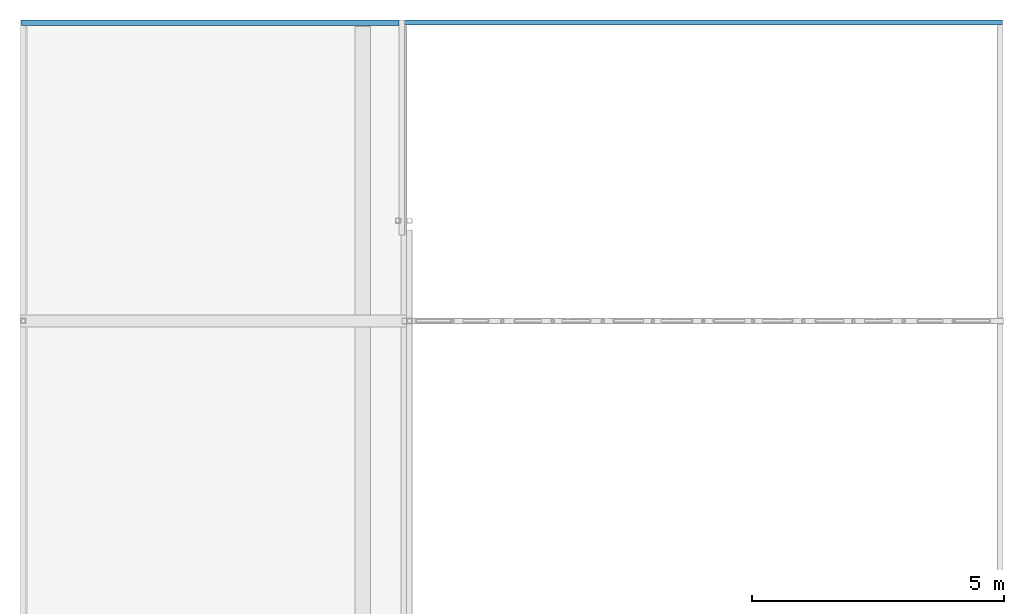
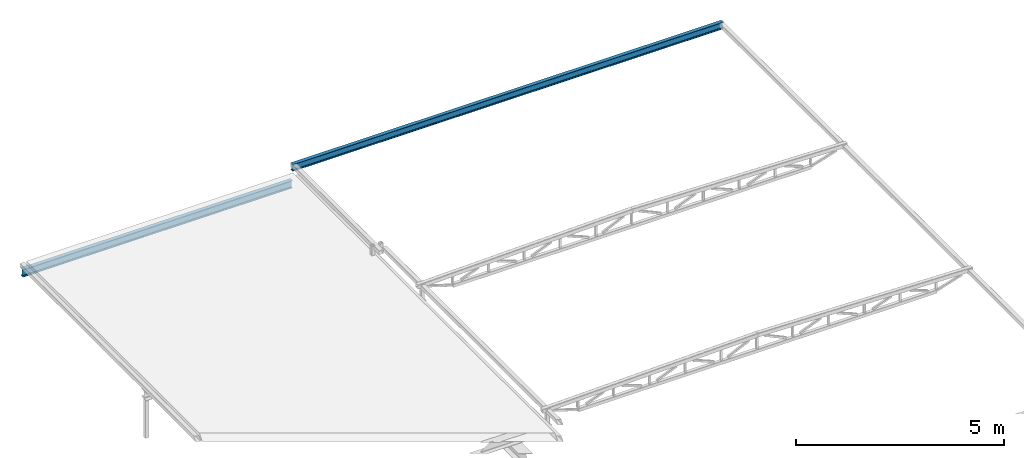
# One storey, part 3 of 12: 2 beams.
"""IFC2X3 building model written with IfcOpenShell, lengths in millimetres."""

from ifc_helpers import new_model, entity, si_unit, converted_unit, derived_unit, direction, frame, frame_2d, origin, place, context, subcontext, project, spatial, i_section, extrude, material, type_object, element, save


model = new_model("IFC2X3")

# Units and contexts
model_context = context("Model", 3, precision=0.01, world=origin(), true_north=direction((6.12303176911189e-17, 1.0)))
body_context = subcontext(model_context, "Body", "Model", "MODEL_VIEW")
ifc_project = project(units=[si_unit("LENGTHUNIT", "METRE", prefix="MILLI"), si_unit("AREAUNIT", "SQUARE_METRE"), si_unit("VOLUMEUNIT", "CUBIC_METRE"), converted_unit("PLANEANGLEUNIT", "DEGREE", entity("IfcRatioMeasure", 0.0174532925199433), si_unit("PLANEANGLEUNIT", "RADIAN"), dimensions=[0, 0, 0, 0, 0, 0, 0]), si_unit("MASSUNIT", "GRAM", prefix="KILO"), derived_unit("MASSDENSITYUNIT", [(si_unit("MASSUNIT", "GRAM", prefix="KILO"), 1), (si_unit("LENGTHUNIT", "METRE"), -3)]), si_unit("TIMEUNIT", "SECOND"), si_unit("FREQUENCYUNIT", "HERTZ"), si_unit("THERMODYNAMICTEMPERATUREUNIT", "DEGREE_CELSIUS"), derived_unit("THERMALTRANSMITTANCEUNIT", [(si_unit("MASSUNIT", "GRAM", prefix="KILO"), 1), (si_unit("THERMODYNAMICTEMPERATUREUNIT", "KELVIN"), -1), (si_unit("TIMEUNIT", "SECOND"), -3)]), derived_unit("VOLUMETRICFLOWRATEUNIT", [(si_unit("LENGTHUNIT", "METRE"), 3), (si_unit("TIMEUNIT", "SECOND"), -1)]), si_unit("ELECTRICCURRENTUNIT", "AMPERE"), si_unit("ELECTRICVOLTAGEUNIT", "VOLT"), si_unit("POWERUNIT", "WATT"), si_unit("FORCEUNIT", "NEWTON", prefix="KILO"), si_unit("ILLUMINANCEUNIT", "LUX"), si_unit("LUMINOUSFLUXUNIT", "LUMEN"), si_unit("LUMINOUSINTENSITYUNIT", "CANDELA"), derived_unit("USERDEFINED", [(si_unit("MASSUNIT", "GRAM", prefix="KILO"), -1), (si_unit("LENGTHUNIT", "METRE"), -2), (si_unit("TIMEUNIT", "SECOND"), 3), (si_unit("LUMINOUSFLUXUNIT", "LUMEN"), 1)]), derived_unit("LINEARVELOCITYUNIT", [(si_unit("LENGTHUNIT", "METRE"), 1), (si_unit("TIMEUNIT", "SECOND"), -1)]), si_unit("PRESSUREUNIT", "PASCAL"), derived_unit("USERDEFINED", [(si_unit("LENGTHUNIT", "METRE"), -2), (si_unit("MASSUNIT", "GRAM", prefix="KILO"), 1), (si_unit("TIMEUNIT", "SECOND"), -2)])], contexts=[model_context])

# Site, building, storey
site_placement = place(None, frame((0.0, 0.0, 101000.0)))
site = spatial("IfcSite", under=ifc_project, at=site_placement, Name="Default", CompositionType="ELEMENT")
building_placement = place(site_placement, origin())
building = spatial("IfcBuilding", under=site, at=building_placement, CompositionType="ELEMENT")
storey_placement = place(building_placement, frame((0.0, 0.0, 6025.0)))
storey = spatial("IfcBuildingStorey", under=building, at=storey_placement, Name="03", CompositionType="ELEMENT", Elevation=6024.9999999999)

# Beams
ifc_material = material(Name="Stål - S355")
beam_type_1 = type_object("IfcBeamType", Name="Bjelke IPE:IPE 200", PredefinedType="BEAM")
beam_1_placement = place(storey_placement, frame((11210.9045409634, 44342.9507529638, 0.0)))
element("IfcBeam", 1, at=beam_1_placement, inside=storey, type_object=beam_type_1, material=ifc_material, Name="Bjelke IPE:IPE 200", ObjectType="Bjelke IPE:IPE 200", context=body_context, shape_type="SweptSolid", body=[
    extrude(i_section(OverallWidth=100.000000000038, OverallDepth=200.0, WebThickness=5.59999999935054, FlangeThickness=8.50000000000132, FilletRadius=11.999999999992, at=frame_2d((1.08002495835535e-12, -8.66506866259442e-12), x_axis=(0.0, 1.0))), frame((0.0, 0.0, -100.0), z_axis=(1.0, 0.0, 0.0), x_axis=(0.0, 0.0, -1.0)), (0.0, 0.0, 1.0), 11950.3599560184),
])
beam_type_2 = type_object("IfcBeamType", Name="Bjelke IPE:IPE 220", PredefinedType="BEAM")
beam_2_placement = place(storey_placement, frame((3786.26449698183, 44337.9507529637, -675.0)))
element("IfcBeam", 2, at=beam_2_placement, inside=storey, type_object=beam_type_2, material=ifc_material, Name="Bjelke IPE:IPE 220", ObjectType="Bjelke IPE:IPE 220", context=body_context, shape_type="SweptSolid", body=[
    extrude(i_section(OverallWidth=110.000000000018, OverallDepth=220.0, WebThickness=5.59999999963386, FlangeThickness=8.50000000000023, FilletRadius=11.999999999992, at=frame_2d((0.0, 4.33075797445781e-12), x_axis=(0.0, 1.0))), frame((-65.0, 0.0, 110.0), z_axis=(1.0, 0.0, 0.0), x_axis=(0.0, 0.0, -1.0)), (0.0, 0.0, 1.0), 7480.0),
])

save(model, "model.ifc")
